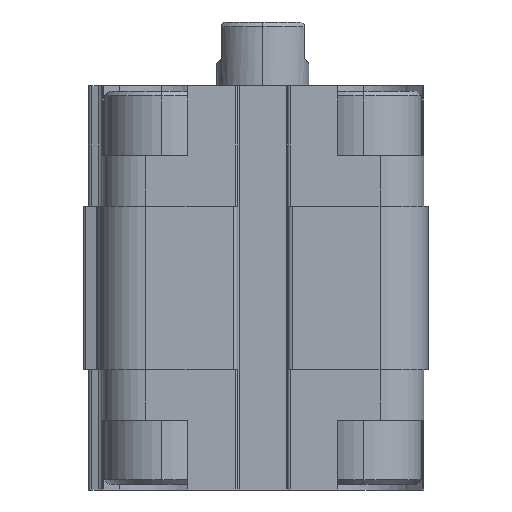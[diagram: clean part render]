
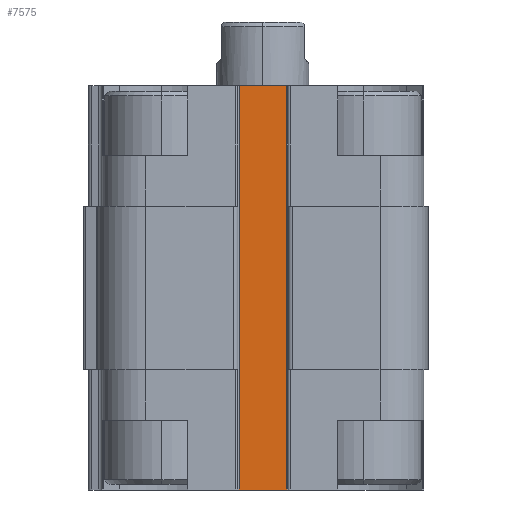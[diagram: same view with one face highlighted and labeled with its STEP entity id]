
A CAD part, left-side view. The second image highlights one B-rep face of the part: STEP entity #7575.
In plain terms, the highlighted planar face has unit normal (-1, 0, 0).
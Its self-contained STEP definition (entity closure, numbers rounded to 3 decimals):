
#1126 = EDGE_LOOP ( 'NONE', ( #6740, #6721, #6708, #6724 ) ) ;
#1460 = CARTESIAN_POINT ( 'NONE',  ( -13.7, 0., -13.1 ) ) ;
#1461 = DIRECTION ( 'NONE',  ( 0., 1., 0. ) ) ;
#1775 = CARTESIAN_POINT ( 'NONE',  ( -13.7, -2.6, -13.1 ) ) ;
#1780 = PLANE ( 'NONE',  #5653 ) ;
#1783 = DIRECTION ( 'NONE',  ( 1., 0., 0. ) ) ;
#1784 = DIRECTION ( 'NONE',  ( 0., 1., 0. ) ) ;
#2455 = CARTESIAN_POINT ( 'NONE',  ( -13.7, -2.6, -13.1 ) ) ;
#3132 = LINE ( 'NONE', #1460, #3134 ) ;
#3134 = VECTOR ( 'NONE', #1461, 1000. ) ;
#3461 = EDGE_CURVE ( 'NONE', #4445, #6466, #7774, .T. ) ;
#3463 = EDGE_CURVE ( 'NONE', #4445, #4438, #7780, .T. ) ;
#3464 = EDGE_CURVE ( 'NONE', #4489, #4438, #7776, .T. ) ;
#4438 = VERTEX_POINT ( 'NONE', #9232 ) ;
#4445 = VERTEX_POINT ( 'NONE', #9239 ) ;
#4489 = VERTEX_POINT ( 'NONE', #9283 ) ;
#4942 = FACE_OUTER_BOUND ( 'NONE', #1126, .T. ) ;
#5653 = AXIS2_PLACEMENT_3D ( 'NONE', #1775, #1783, #1784 ) ;
#6466 = VERTEX_POINT ( 'NONE', #2455 ) ;
#6708 = ORIENTED_EDGE ( 'NONE', *, *, #3463, .T. ) ;
#6721 = ORIENTED_EDGE ( 'NONE', *, *, #3461, .F. ) ;
#6724 = ORIENTED_EDGE ( 'NONE', *, *, #3464, .F. ) ;
#6740 = ORIENTED_EDGE ( 'NONE', *, *, #7472, .F. ) ;
#7031 = CARTESIAN_POINT ( 'NONE',  ( -13.7, -2.6, 8.9 ) ) ;
#7036 = DIRECTION ( 'NONE',  ( 0., 1., 0. ) ) ;
#7038 = CARTESIAN_POINT ( 'NONE',  ( -13.7, 0.75, 30.9 ) ) ;
#7039 = DIRECTION ( 'NONE',  ( 0., 0., -1. ) ) ;
#7041 = CARTESIAN_POINT ( 'NONE',  ( -13.7, 2.6, 8.9 ) ) ;
#7046 = DIRECTION ( 'NONE',  ( 0., 0., 1. ) ) ;
#7472 = EDGE_CURVE ( 'NONE', #6466, #4489, #3132, .T. ) ;
#7575 = ADVANCED_FACE ( 'NONE', ( #4942 ), #1780, .F. ) ;
#7774 = LINE ( 'NONE', #7031, #7779 ) ;
#7776 = LINE ( 'NONE', #7041, #7784 ) ;
#7779 = VECTOR ( 'NONE', #7039, 1000. ) ;
#7780 = LINE ( 'NONE', #7038, #7782 ) ;
#7782 = VECTOR ( 'NONE', #7036, 1000. ) ;
#7784 = VECTOR ( 'NONE', #7046, 1000. ) ;
#9232 = CARTESIAN_POINT ( 'NONE',  ( -13.7, 2.6, 30.9 ) ) ;
#9239 = CARTESIAN_POINT ( 'NONE',  ( -13.7, -2.6, 30.9 ) ) ;
#9283 = CARTESIAN_POINT ( 'NONE',  ( -13.7, 2.6, -13.1 ) ) ;
